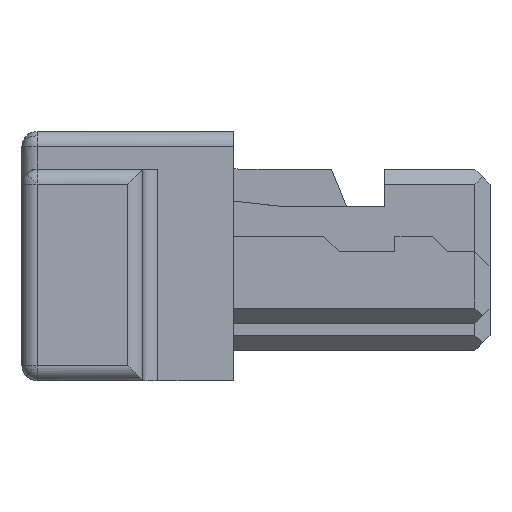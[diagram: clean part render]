
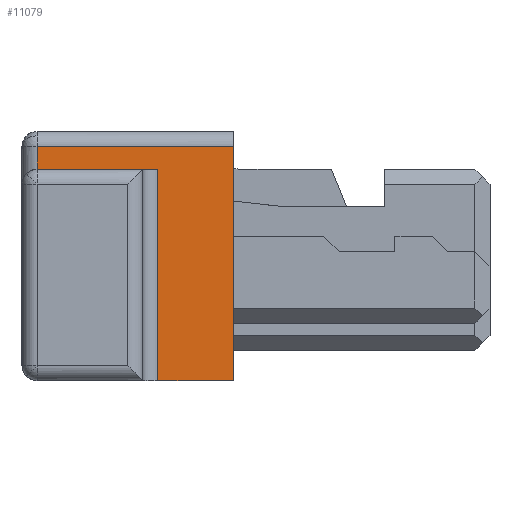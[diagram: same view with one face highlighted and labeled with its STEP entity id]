
A CAD part, front view. The second image highlights one B-rep face of the part: STEP entity #11079.
In plain terms, the highlighted planar face has unit normal (0, -1, 0).
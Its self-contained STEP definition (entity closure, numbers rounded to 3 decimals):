
#161=DIRECTION('',(0.,0.,1.));
#162=VECTOR('',#161,1.4);
#163=CARTESIAN_POINT('',(0.9,-6.8,-0.825));
#164=LINE('',#163,#162);
#165=DIRECTION('',(1.,0.,0.));
#166=VECTOR('',#165,0.5);
#167=CARTESIAN_POINT('',(0.9,-6.8,-0.825));
#168=LINE('',#167,#166);
#169=DIRECTION('',(1.,0.,0.));
#170=VECTOR('',#169,0.8);
#171=CARTESIAN_POINT('',(0.1,-6.8,0.575));
#172=LINE('',#171,#170);
#173=DIRECTION('',(0.,0.,1.));
#174=VECTOR('',#173,0.15);
#175=CARTESIAN_POINT('',(0.1,-6.8,0.575));
#176=LINE('',#175,#174);
#412=DIRECTION('',(0.,0.,-1.));
#413=VECTOR('',#412,1.55);
#414=CARTESIAN_POINT('',(1.4,-6.8,0.725));
#415=LINE('',#414,#413);
#450=DIRECTION('',(1.,0.,0.));
#451=VECTOR('',#450,1.3);
#452=CARTESIAN_POINT('',(0.1,-6.8,0.725));
#453=LINE('',#452,#451);
#8185=CARTESIAN_POINT('',(0.1,-6.8,0.575));
#8186=VERTEX_POINT('',#8185);
#8187=CARTESIAN_POINT('',(0.9,-6.8,0.575));
#8188=VERTEX_POINT('',#8187);
#8240=CARTESIAN_POINT('',(0.9,-6.8,-0.825));
#8241=VERTEX_POINT('',#8240);
#8242=CARTESIAN_POINT('',(0.1,-6.8,0.725));
#8243=CARTESIAN_POINT('',(1.4,-6.8,0.725));
#8244=VERTEX_POINT('',#8242);
#8245=VERTEX_POINT('',#8243);
#8246=CARTESIAN_POINT('',(1.4,-6.8,-0.825));
#8247=VERTEX_POINT('',#8246);
#11063=CARTESIAN_POINT('',(0.75,-6.8,-0.05));
#11064=DIRECTION('',(0.,1.,0.));
#11065=DIRECTION('',(-1.,0.,0.));
#11066=AXIS2_PLACEMENT_3D('',#11063,#11064,#11065);
#11067=PLANE('',#11066);
#11069=ORIENTED_EDGE('',*,*,#11068,.T.);
#11071=ORIENTED_EDGE('',*,*,#11070,.T.);
#11073=ORIENTED_EDGE('',*,*,#11072,.T.);
#11074=ORIENTED_EDGE('',*,*,#11035,.F.);
#11075=ORIENTED_EDGE('',*,*,#11057,.T.);
#11076=ORIENTED_EDGE('',*,*,#10607,.F.);
#11077=EDGE_LOOP('',(#11069,#11071,#11073,#11074,#11075,#11076));
#11078=FACE_OUTER_BOUND('',#11077,.F.);
#11079=ADVANCED_FACE('',(#11078),#11067,.F.);
#10607=EDGE_CURVE('',#8186,#8188,#172,.T.);
#11035=EDGE_CURVE('',#8241,#8247,#168,.T.);
#11057=EDGE_CURVE('',#8241,#8188,#164,.T.);
#11068=EDGE_CURVE('',#8186,#8244,#176,.T.);
#11070=EDGE_CURVE('',#8244,#8245,#453,.T.);
#11072=EDGE_CURVE('',#8245,#8247,#415,.T.);
